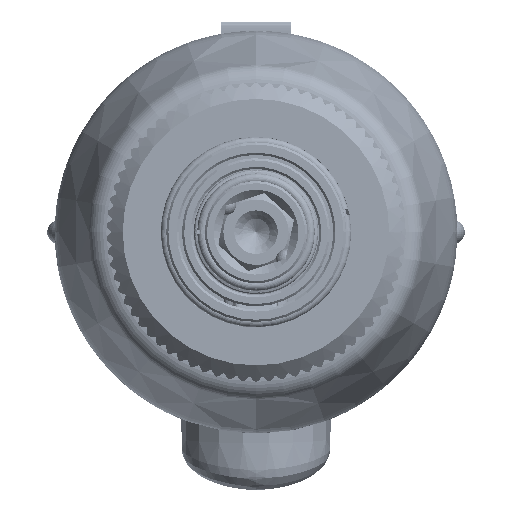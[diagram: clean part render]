
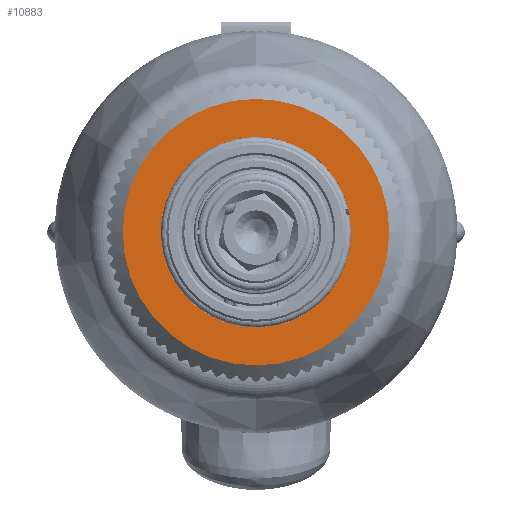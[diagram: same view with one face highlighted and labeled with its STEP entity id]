
A CAD part, front view. The second image highlights one B-rep face of the part: STEP entity #10883.
In plain terms, the highlighted planar face has unit normal (0, -1, 0).
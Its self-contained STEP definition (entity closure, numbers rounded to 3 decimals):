
#3024 = CARTESIAN_POINT ( 'NONE',  ( 0., -48.039, 0. ) ) ;
#3905 = VERTEX_POINT ( 'NONE', #33353 ) ;
#5154 = CARTESIAN_POINT ( 'NONE',  ( 0., -48.039, -12.25 ) ) ;
#10883 = ADVANCED_FACE ( 'NONE', ( #152868, #86871 ), #98897, .F. ) ;
#16402 = DIRECTION ( 'NONE',  ( 0., 1., 0. ) ) ;
#19063 = DIRECTION ( 'NONE',  ( 0., 1., 0. ) ) ;
#30622 = CIRCLE ( 'NONE', #175918, 8.753 ) ;
#33353 = CARTESIAN_POINT ( 'NONE',  ( 0., -48.039, 12.25 ) ) ;
#37364 = DIRECTION ( 'NONE',  ( 0., 0., 1. ) ) ;
#39698 = CARTESIAN_POINT ( 'NONE',  ( 0., -48.039, 0. ) ) ;
#48315 = DIRECTION ( 'NONE',  ( 0., 0., 1. ) ) ;
#55587 = VERTEX_POINT ( 'NONE', #126815 ) ;
#57945 = DIRECTION ( 'NONE',  ( 0., 1., 0. ) ) ;
#62839 = CIRCLE ( 'NONE', #74620, 12.25 ) ;
#68833 = DIRECTION ( 'NONE',  ( 0., 1., 0. ) ) ;
#74620 = AXIS2_PLACEMENT_3D ( 'NONE', #89354, #68833, #48315 ) ;
#74737 = VERTEX_POINT ( 'NONE', #177342 ) ;
#78415 = CARTESIAN_POINT ( 'NONE',  ( 12.25, -48.039, 0. ) ) ;
#86871 = FACE_BOUND ( 'NONE', #131159, .T. ) ;
#87301 = ORIENTED_EDGE ( 'NONE', *, *, #166073, .T. ) ;
#87706 = ORIENTED_EDGE ( 'NONE', *, *, #120630, .T. ) ;
#89354 = CARTESIAN_POINT ( 'NONE',  ( 0., -48.039, 0. ) ) ;
#96725 = EDGE_LOOP ( 'NONE', ( #186576, #154791 ) ) ;
#98897 = PLANE ( 'NONE',  #102356 ) ;
#102356 = AXIS2_PLACEMENT_3D ( 'NONE', #78415, #57945, #37364 ) ;
#120630 = EDGE_CURVE ( 'NONE', #74737, #55587, #164976, .T. ) ;
#121492 = DIRECTION ( 'NONE',  ( 0., 0., 1. ) ) ;
#126815 = CARTESIAN_POINT ( 'NONE',  ( 0., -48.039, 8.753 ) ) ;
#127812 = EDGE_CURVE ( 'NONE', #3905, #133457, #160682, .T. ) ;
#131159 = EDGE_LOOP ( 'NONE', ( #87706, #87301 ) ) ;
#133457 = VERTEX_POINT ( 'NONE', #5154 ) ;
#134459 = EDGE_CURVE ( 'NONE', #133457, #3905, #62839, .T. ) ;
#139766 = CARTESIAN_POINT ( 'NONE',  ( 0., -48.039, 0. ) ) ;
#142061 = DIRECTION ( 'NONE',  ( 0., 1., 0. ) ) ;
#146145 = AXIS2_PLACEMENT_3D ( 'NONE', #39698, #19063, #199355 ) ;
#152868 = FACE_OUTER_BOUND ( 'NONE', #96725, .T. ) ;
#154791 = ORIENTED_EDGE ( 'NONE', *, *, #134459, .F. ) ;
#160682 = CIRCLE ( 'NONE', #146145, 12.25 ) ;
#164976 = CIRCLE ( 'NONE', #177341, 8.753 ) ;
#166073 = EDGE_CURVE ( 'NONE', #55587, #74737, #30622, .T. ) ;
#175918 = AXIS2_PLACEMENT_3D ( 'NONE', #3024, #142061, #121492 ) ;
#177341 = AXIS2_PLACEMENT_3D ( 'NONE', #139766, #16402, #196661 ) ;
#177342 = CARTESIAN_POINT ( 'NONE',  ( 0., -48.039, -8.753 ) ) ;
#186576 = ORIENTED_EDGE ( 'NONE', *, *, #127812, .F. ) ;
#196661 = DIRECTION ( 'NONE',  ( 0., 0., 1. ) ) ;
#199355 = DIRECTION ( 'NONE',  ( 0., 0., 1. ) ) ;
